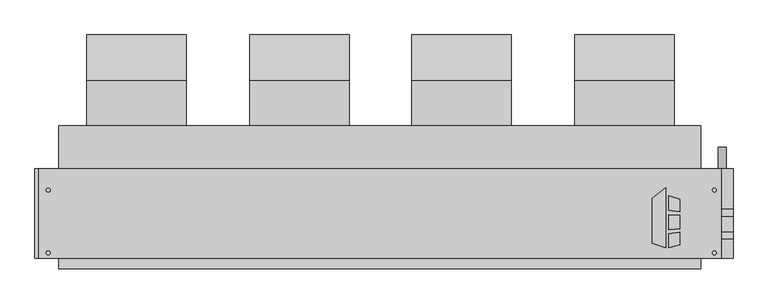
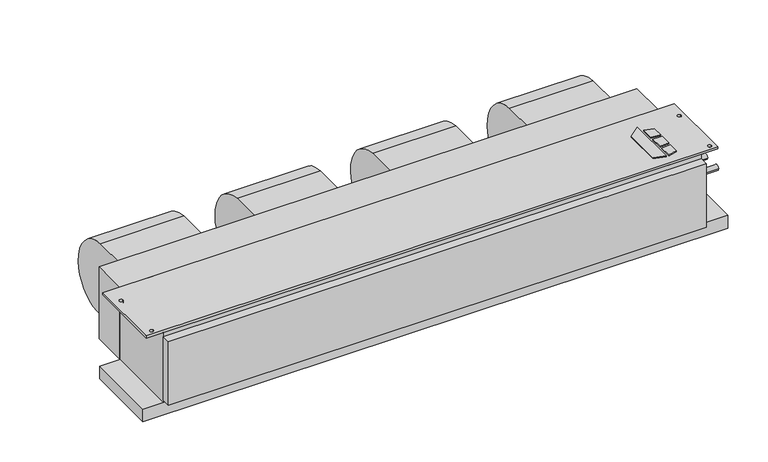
"""IFC4 building model written with IfcOpenShell, lengths in millimetres: proxy geometry, Concealed_Horizontal_Fan_Coil_Unit_-_CHY_-_IEC_-_2-Pipe_Cool-EHeat_RH_2022 : Size 12 - 277v/60Hz/1Ph - 4 Row 10.0kW."""

from ifc_helpers import new_model, si_unit, point, frame, frame_2d, origin, origin_with_axes, place, context, project, spatial, polyline, circle_curve, trimmed, segment, composite_curve, outline, extrude, source, transform, mapped, element, save


def mechanical_equipment_d1901efa(model_context):
    return source(origin(), model_context, "Body", "SweptSolid", [
        extrude(outline(polyline([(798.2019761, -202.5703476), (830.7602728, -177.1330184), (830.7602728, -319.0875), (798.2019761, -308.8679201), (798.2019761, -202.5703476)])), origin_with_axes(), (0.0, 0.0, 1.0), 3.175),
        extrude(outline(polyline([(837.5186058, -230.442352), (837.5186058, -195.9624379), (863.6, -204.1490115), (863.6, -233.6447446), (837.5186058, -230.442352)])), origin_with_axes(), (0.0, 0.0, 1.0), 3.175),
        extrude(outline(polyline([(863.6, -312.0990115), (837.5186058, -319.0875), (837.5186058, -285.8661996), (863.6, -282.3243564), (863.6, -312.0990115)])), origin_with_axes(), (0.0, 0.0, 1.0), 3.175),
        extrude(outline(polyline([(863.6, -242.7263277), (863.6, -273.976483), (837.5186058, -276.717748), (837.5186058, -240.8600378), (863.6, -242.7263277)])), origin_with_axes(), (0.0, 0.0, 1.0), 3.175),
        extrude(outline(composite_curve([segment(trimmed(circle_curve(frame_2d((68.401169, -136.0299844)), 117.3559541), [point((77.7875, -19.05))], [point((185.7375, -138.176))], False, "CARTESIAN"), True, "CONTINUOUS"), segment(trimmed(circle_curve(frame_2d((90.0022663, -136.4250563)), 95.7512443), [point((185.7375, -138.176))], [point((77.7875, -231.394))], False, "CARTESIAN"), True, "CONTINUOUS"), segment(trimmed(circle_curve(frame_2d((89.9711869, -136.6666968)), 95.5076133), [point((77.7875, -231.394))], [point((-5.5245, -138.176))], False, "CARTESIAN"), True, "CONTINUOUS"), segment(trimmed(circle_curve(frame_2d((-24.6059828, -138.4775816)), 19.0838659), [point((-5.5245, -138.176))], [point((-17.7963373, -120.65))], True, "CARTESIAN"), True, "CONTINUOUS"), segment(polyline([(-17.7963373, -120.65), (-30.1625, -120.65), (-30.1625, -19.05), (77.7875, -19.05)]), True, "CONTINUOUS")], self_intersect=False)), frame((615.188, 0.0, 0.0), z_axis=(1.0, 0.0, 0.0), x_axis=(0.0, 1.0, 0.0)), (0.0, 0.0, 1.0), 235.712),
        extrude(outline(composite_curve([segment(trimmed(circle_curve(frame_2d((68.401169, -136.0299844)), 117.3559541), [point((77.7875, -19.05))], [point((185.7375, -138.176))], False, "CARTESIAN"), True, "CONTINUOUS"), segment(trimmed(circle_curve(frame_2d((90.0022663, -136.4250563)), 95.7512443), [point((185.7375, -138.176))], [point((77.7875, -231.394))], False, "CARTESIAN"), True, "CONTINUOUS"), segment(trimmed(circle_curve(frame_2d((89.9711869, -136.6666968)), 95.5076133), [point((77.7875, -231.394))], [point((-5.5245, -138.176))], False, "CARTESIAN"), True, "CONTINUOUS"), segment(trimmed(circle_curve(frame_2d((-24.6059828, -138.4775816)), 19.0838659), [point((-5.5245, -138.176))], [point((-17.7963373, -120.65))], True, "CARTESIAN"), True, "CONTINUOUS"), segment(polyline([(-17.7963373, -120.65), (-30.1625, -120.65), (-30.1625, -19.05), (77.7875, -19.05)]), True, "CONTINUOUS")], self_intersect=False)), frame((-543.687, 0.0, 0.0), z_axis=(1.0, 0.0, 0.0), x_axis=(0.0, 1.0, 0.0)), (0.0, 0.0, 1.0), 235.712),
        extrude(outline(composite_curve([segment(trimmed(circle_curve(frame_2d((68.401169, -136.0299844)), 117.3559541), [point((77.7875, -19.05))], [point((185.7375, -138.176))], False, "CARTESIAN"), True, "CONTINUOUS"), segment(trimmed(circle_curve(frame_2d((90.0022663, -136.4250563)), 95.7512443), [point((185.7375, -138.176))], [point((77.7875, -231.394))], False, "CARTESIAN"), True, "CONTINUOUS"), segment(trimmed(circle_curve(frame_2d((89.9711869, -136.6666968)), 95.5076133), [point((77.7875, -231.394))], [point((-5.5245, -138.176))], False, "CARTESIAN"), True, "CONTINUOUS"), segment(trimmed(circle_curve(frame_2d((-24.6059828, -138.4775816)), 19.0838659), [point((-5.5245, -138.176))], [point((-17.7963373, -120.65))], True, "CARTESIAN"), True, "CONTINUOUS"), segment(polyline([(-17.7963373, -120.65), (-30.1625, -120.65), (-30.1625, -19.05), (77.7875, -19.05)]), True, "CONTINUOUS")], self_intersect=False)), frame((-156.337, 0.0, 0.0), z_axis=(1.0, 0.0, 0.0), x_axis=(0.0, 1.0, 0.0)), (0.0, 0.0, 1.0), 235.712),
        extrude(outline(composite_curve([segment(trimmed(circle_curve(frame_2d((68.401169, -136.0299844)), 117.3559541), [point((77.7875, -19.05))], [point((185.7375, -138.176))], False, "CARTESIAN"), True, "CONTINUOUS"), segment(trimmed(circle_curve(frame_2d((90.0022663, -136.4250563)), 95.7512443), [point((185.7375, -138.176))], [point((77.7875, -231.394))], False, "CARTESIAN"), True, "CONTINUOUS"), segment(trimmed(circle_curve(frame_2d((89.9711869, -136.6666968)), 95.5076133), [point((77.7875, -231.394))], [point((-5.5245, -138.176))], False, "CARTESIAN"), True, "CONTINUOUS"), segment(trimmed(circle_curve(frame_2d((-24.6059828, -138.4775816)), 19.0838659), [point((-5.5245, -138.176))], [point((-17.7963373, -120.65))], True, "CARTESIAN"), True, "CONTINUOUS"), segment(polyline([(-17.7963373, -120.65), (-30.1625, -120.65), (-30.1625, -19.05), (77.7875, -19.05)]), True, "CONTINUOUS")], self_intersect=False)), frame((227.838, 0.0, 0.0), z_axis=(1.0, 0.0, 0.0), x_axis=(0.0, 1.0, 0.0)), (0.0, 0.0, 1.0), 235.712),
        extrude(outline(polyline([(962.025, -131.7625), (962.025, -344.4875), (-657.225, -344.4875), (-657.225, -131.7625), (962.025, -131.7625)]), holes=[composite_curve([segment(trimmed(circle_curve(frame_2d((-635.0, -182.5625)), 4.7625), [point((-639.7625, -182.5625))], [point((-630.2375, -182.5625))], True, "CARTESIAN"), True, "CONTINUOUS"), segment(trimmed(circle_curve(frame_2d((-635.0, -182.5625)), 4.7625), [point((-630.2375, -182.5625))], [point((-639.7625, -182.5625))], True, "CARTESIAN"), True, "CONTINUOUS")], self_intersect=False), composite_curve([segment(trimmed(circle_curve(frame_2d((-635.0, -331.7875)), 4.7625), [point((-639.7625, -331.7875))], [point((-630.2375, -331.7875))], True, "CARTESIAN"), True, "CONTINUOUS"), segment(trimmed(circle_curve(frame_2d((-635.0, -331.7875)), 4.7625), [point((-630.2375, -331.7875))], [point((-639.7625, -331.7875))], True, "CARTESIAN"), True, "CONTINUOUS")], self_intersect=False), composite_curve([segment(trimmed(circle_curve(frame_2d((946.15, -182.5625)), 4.7625), [point((941.3875, -182.5625))], [point((950.9125, -182.5625))], True, "CARTESIAN"), True, "CONTINUOUS"), segment(trimmed(circle_curve(frame_2d((946.15, -182.5625)), 4.7625), [point((950.9125, -182.5625))], [point((941.3875, -182.5625))], True, "CARTESIAN"), True, "CONTINUOUS")], self_intersect=False), composite_curve([segment(trimmed(circle_curve(frame_2d((946.15, -331.7875)), 4.7625), [point((941.3875, -331.7875))], [point((950.9125, -331.7875))], True, "CARTESIAN"), True, "CONTINUOUS"), segment(trimmed(circle_curve(frame_2d((946.15, -331.7875)), 4.7625), [point((950.9125, -331.7875))], [point((941.3875, -331.7875))], True, "CARTESIAN"), True, "CONTINUOUS")], self_intersect=False)]), frame((0.0, 0.0, -6.35), z_axis=(0.0, 0.0, 1.0), x_axis=(1.0, 0.0, 0.0)), (0.0, 0.0, 1.0), 6.35),
        extrude(outline(polyline([(-609.6, -30.1625), (914.4, -30.1625), (914.4, -131.7625), (-609.6, -131.7625), (-609.6, -30.1625)])), frame((0.0, 0.0, -215.9), z_axis=(0.0, 0.0, 1.0), x_axis=(1.0, 0.0, 0.0)), (0.0, 0.0, 1.0), 215.9),
        extrude(outline(composite_curve([segment(trimmed(circle_curve(frame_2d((-241.3, 965.2)), 9.525), [point((-241.3, 955.675))], [point((-241.3, 974.725))], False, "CARTESIAN"), True, "CONTINUOUS"), segment(trimmed(circle_curve(frame_2d((-241.3, 965.2)), 9.525), [point((-241.3, 974.725))], [point((-241.3, 955.675))], False, "CARTESIAN"), True, "CONTINUOUS")], self_intersect=False)), frame((0.0, -131.7625, 0.0), z_axis=(0.0, 1.0, 0.0), x_axis=(0.0, 0.0, 1.0)), (0.0, 0.0, 1.0), 50.8),
        extrude(outline(polyline([(914.4, -369.8875), (-609.6, -369.8875), (-609.6, -344.4875), (914.4, -344.4875), (914.4, -369.8875)])), frame((0.0, 0.0, -209.55), z_axis=(0.0, 0.0, 1.0), x_axis=(1.0, 0.0, 0.0)), (0.0, 0.0, 1.0), 190.5),
        extrude(outline(polyline([(990.6, -131.7625), (990.6, -344.4875), (-666.75, -344.4875), (-666.75, -131.7625), (990.6, -131.7625)])), frame((0.0, 0.0, -254.0), z_axis=(0.0, 0.0, 1.0), x_axis=(1.0, 0.0, 0.0)), (0.0, 0.0, 1.0), 38.1),
        extrude(outline(composite_curve([segment(trimmed(circle_curve(frame_2d((-290.5125, -104.775)), 7.9375), [point((-298.45, -104.775))], [point((-282.575, -104.775))], False, "CARTESIAN"), True, "CONTINUOUS"), segment(trimmed(circle_curve(frame_2d((-290.5125, -104.775)), 7.9375), [point((-282.575, -104.775))], [point((-298.45, -104.775))], False, "CARTESIAN"), True, "CONTINUOUS")], self_intersect=False)), frame((914.4, 0.0, 0.0), z_axis=(1.0, 0.0, 0.0), x_axis=(0.0, 1.0, 0.0)), (0.0, 0.0, 1.0), 76.2),
        extrude(outline(composite_curve([segment(trimmed(circle_curve(frame_2d((-236.5375, -104.775)), 7.9375), [point((-244.475, -104.775))], [point((-228.6, -104.775))], False, "CARTESIAN"), True, "CONTINUOUS"), segment(trimmed(circle_curve(frame_2d((-236.5375, -104.775)), 7.9375), [point((-228.6, -104.775))], [point((-244.475, -104.775))], False, "CARTESIAN"), True, "CONTINUOUS")], self_intersect=False)), frame((914.4, 0.0, 0.0), z_axis=(1.0, 0.0, 0.0), x_axis=(0.0, 1.0, 0.0)), (0.0, 0.0, 1.0), 76.2),
        extrude(outline(polyline([(914.4, -344.4875), (-609.6, -344.4875), (-609.6, -131.7625), (914.4, -131.7625), (914.4, -344.4875)])), frame((0.0, 0.0, -215.9), z_axis=(0.0, 0.0, 1.0), x_axis=(1.0, 0.0, 0.0)), (0.0, 0.0, 1.0), 209.55),
    ])


if __name__ == "__main__":
    model = new_model("IFC4")
    model_context = context("Model", 3, world=origin())
    ifc_project = project(units=[si_unit("LENGTHUNIT", "METRE", prefix="MILLI")], contexts=[model_context])
    site = spatial("IfcSite", under=ifc_project)
    building = spatial("IfcBuilding", under=site)
    placement = place(None, origin())
    mechanical_equipment_shape = mechanical_equipment_d1901efa(model_context)
    element("IfcBuildingElementProxy", 1, Name="Concealed_Horizontal_Fan_Coil_Unit_-_CHY_-_IEC_-_2-Pipe_Cool-EHeat_RH_2022 : Size 12 - 277v/60Hz/1Ph - 4 Row 10.0kW", ObjectType="Concealed_Horizontal_Fan_Coil_Unit_-_CHY_-_IEC_-_2-Pipe_Cool-EHeat_RH_2022 : Size 12 - 277v/60Hz/1Ph - 4 Row 10.0kW", at=placement, inside=building, context=model_context, shape_type="MappedRepresentation", body=[
        mapped(mechanical_equipment_shape, transform((0.0, 0.0, 0.0), x_axis=(1.0, 0.0, 0.0), y_axis=(0.0, 1.0, 0.0), z_axis=(0.0, 0.0, 1.0))),
    ])
    save(model, "model.ifc")
